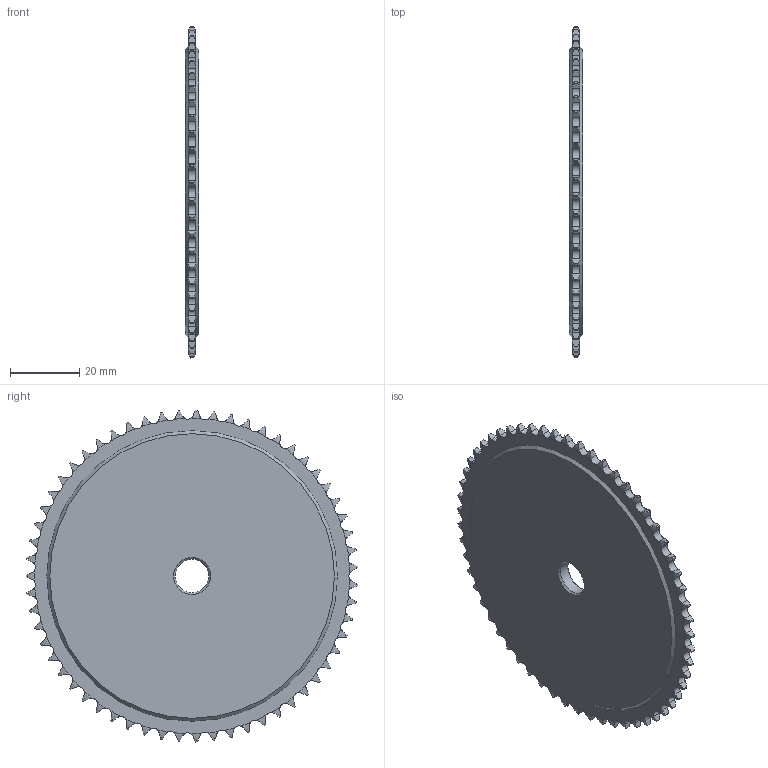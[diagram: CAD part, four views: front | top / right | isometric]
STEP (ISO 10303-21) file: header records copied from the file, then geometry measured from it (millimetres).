
FILE_DESCRIPTION(/* description */ (''),/* implementation_level */ '2;1');
FILE_NAME(/* name */ 'C:\Users\stagistaCAD\Desktop\20105059.stp',/* time_stamp */ '2018-06-27T10:43:04+02:00',/* author */ ('stagistacad'),/* organization */ (''),/* preprocessor_version */ 'ST-DEVELOPER v15.6',/* originating_system */ 'Autodesk Inventor 2015',/* authorisation */ '');
FILE_SCHEMA (('AUTOMOTIVE_DESIGN { 1 0 10303 214 3 1 1 }'));
Length unit declared in the file: millimetre
Products named in the file (1): 20105059
Bounding box: 4 x 95.99 x 96.03 mm (x, y, z)
Volume: 24387.6 mm3; surface area: 14557.1 mm2
Topology: 1 solids, 1 shells, 363 faces, 1075 edges, 716 vertices
Faces by surface type: cylinder 237, torus 118, plane 4, cone 4
Full cylindrical faces by diameter (mm): 9.7 x1
Entity records: 13706 total; most frequent: CARTESIAN_POINT 4562, ORIENTED_EDGE 2140, DIRECTION 1688, EDGE_CURVE 1070, AXIS2_PLACEMENT_3D 726, VERTEX_POINT 716, B_SPLINE_CURVE_WITH_KNOTS 472, EDGE_LOOP 372
